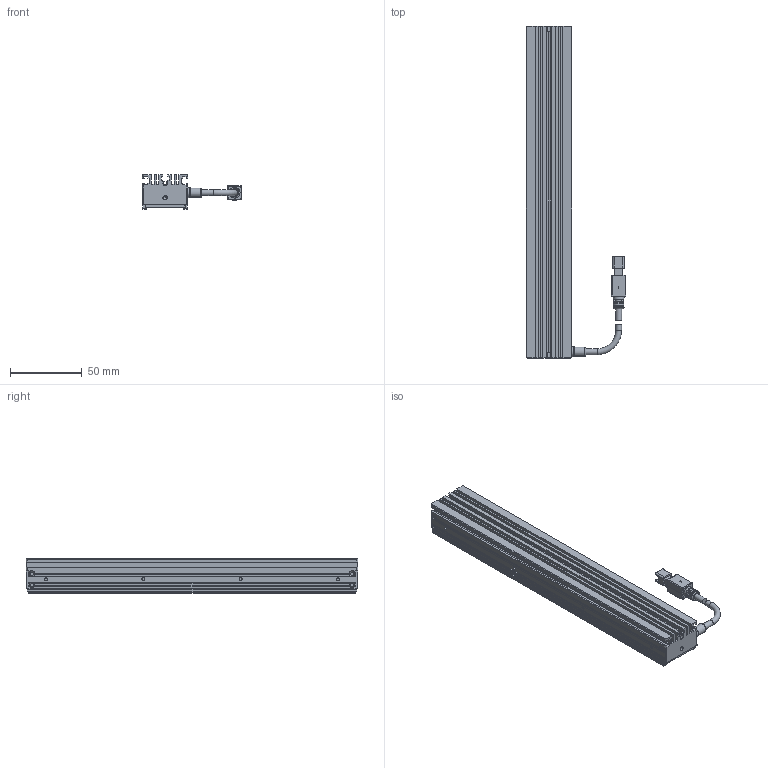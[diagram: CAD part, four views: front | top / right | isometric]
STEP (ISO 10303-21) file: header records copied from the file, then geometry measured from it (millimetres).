
FILE_DESCRIPTION (( 'STEP AP203' ), '1' );
FILE_NAME ('OPT-ULI23232-UV-V1.0U尨砩芞.STEP', '2024-12-10T11:00:03', ( '' ), ( '' ), 'SwSTEP 2.0', 'SolidWorks 2016', '' );
FILE_SCHEMA (( 'CONFIG_CONTROL_DESIGN' ));
Length unit declared in the file: millimetre
Products named in the file (1): OPT-ULI23232-UV-V1.0U尨砩芞
Bounding box: 69.6 x 232 x 24 mm (x, y, z)
Volume: 140960.6 mm3; surface area: 60011.5 mm2
Topology: 6 solids, 16 shells, 651 faces, 1670 edges, 1073 vertices
Faces by surface type: plane 447, cylinder 145, cone 30, bspline 21, torus 8
Full cylindrical faces by diameter (mm): 1.1 x2, 1.4 x4, 1.6 x9, 2 x15, 2.4 x7, 2.5 x2, 2.6 x2, 3 x2, 3.5 x1, 4.1 x4, 6.5 x1, 7 x1, 7.5 x1
Entity records: 19699 total; most frequent: CARTESIAN_POINT 4467, ORIENTED_EDGE 3104, DIRECTION 3023, EDGE_CURVE 1552, VECTOR 1087, LINE 1087, VERTEX_POINT 1040, AXIS2_PLACEMENT_3D 968
